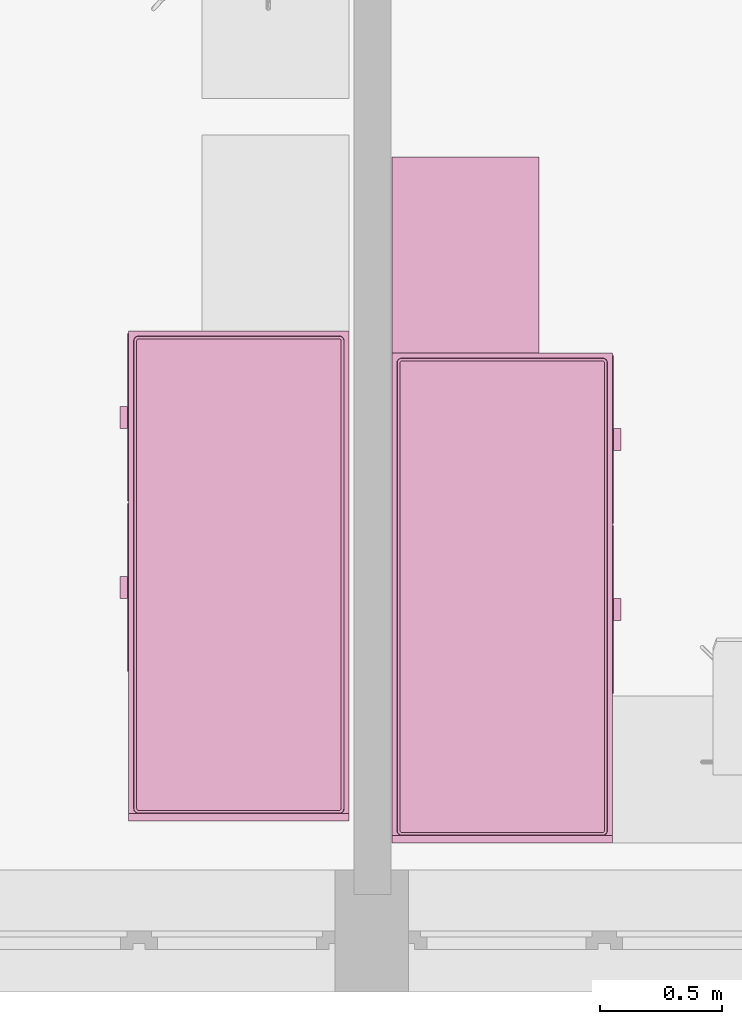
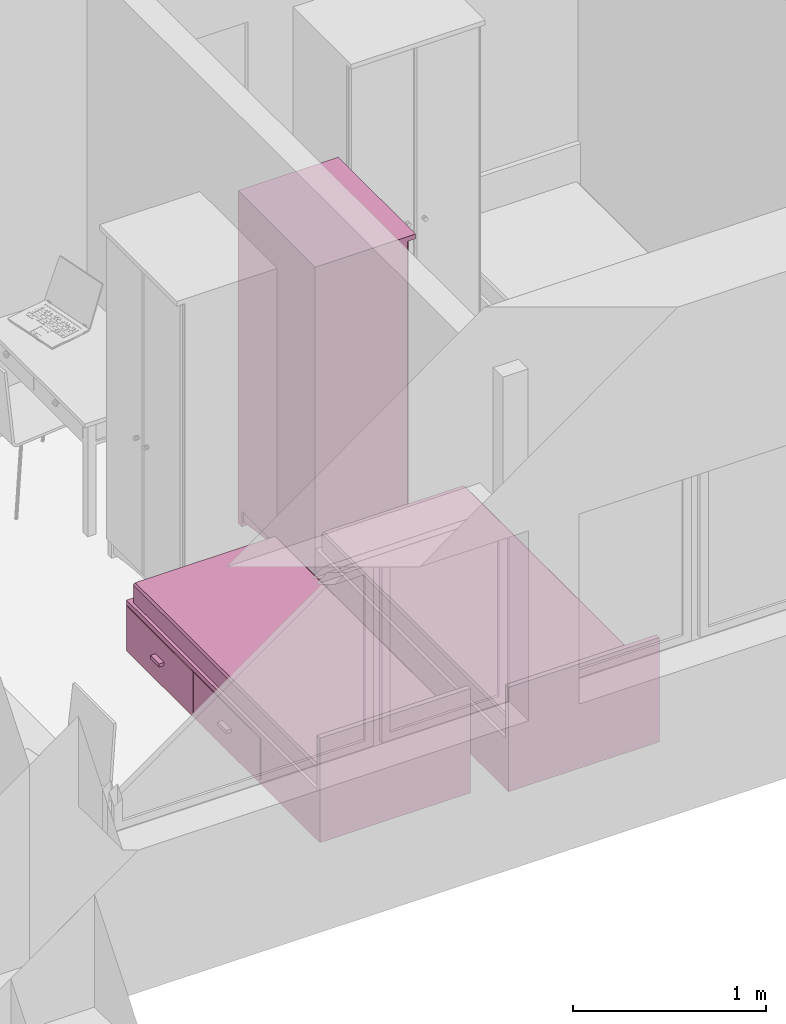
# One storey, part 100 of 165: 3 furnishings.
"""IFC2X3 building model written with IfcOpenShell, lengths in millimetres."""

from ifc_helpers import new_model, entity, si_unit, converted_unit, money_unit, direction, frame, origin_with_axes, place, context, subcontext, project, spatial, faceted_brep, source, transform, mapped, material, material_list, type_object, element, save


model = new_model("IFC2X3")

# Units and contexts
model_context = context("Model", 3, precision=1e-05, world=origin_with_axes(), true_north=direction((0.0, 1.0)))
body_context = subcontext(model_context, "Body", "Model", "MODEL_VIEW")
ifc_project = project(units=[si_unit("LENGTHUNIT", "METRE", prefix="MILLI"), si_unit("AREAUNIT", "SQUARE_METRE"), si_unit("VOLUMEUNIT", "CUBIC_METRE"), converted_unit("PLANEANGLEUNIT", "DEGREE", entity("IfcPlaneAngleMeasure", 0.0174532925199), si_unit("PLANEANGLEUNIT", "RADIAN"), dimensions=[0, 0, 0, 0, 0, 0, 0]), si_unit("SOLIDANGLEUNIT", "STERADIAN"), money_unit("USD"), converted_unit("TIMEUNIT", "Year", entity("IfcTimeMeasure", 31556926.0), si_unit("TIMEUNIT", "SECOND"), dimensions=[0, 0, 0, 0, 0, 0, 0]), si_unit("MASSUNIT", "GRAM"), si_unit("THERMODYNAMICTEMPERATUREUNIT", "DEGREE_CELSIUS"), si_unit("LUMINOUSINTENSITYUNIT", "LUMEN")], contexts=[model_context])

# Site, building, storey
site_placement = place(None, origin_with_axes())
site = spatial("IfcSite", under=ifc_project, at=site_placement, Name="Site", CompositionType="ELEMENT")
building_placement = place(site_placement, origin_with_axes())
building = spatial("IfcBuilding", under=site, at=building_placement, Name="Building", CompositionType="ELEMENT")
storey_placement = place(building_placement, frame((0.0, 0.0, 6300.0), z_axis=(0.0, 0.0, 1.0), x_axis=(1.0, 0.0, 0.0)))
storey = spatial("IfcBuildingStorey", under=building, at=storey_placement, Name="4KORRUS", CompositionType="ELEMENT", Elevation=6300.0)

# Furnishings
ifc_material = material(Name="Background")
ifc_material_list = material_list([ifc_material])
furnishing_element_type_1 = type_object("IfcFurnishingElementType", Name="Bed 19")
shared_shape_1 = source(origin_with_axes(), body_context, "Body", "Brep", [
    faceted_brep([(900.0, 1970.0, 0.0), (0.0, 1970.0, 0.0), (0.0, 2000.0, 0.0), (900.0, 2000.0, 0.0), (900.0, 1970.0, 660.0), (0.0, 1970.0, 660.0), (0.0, 2000.0, 660.0), (900.0, 2000.0, 660.0)], [[[0, 1, 2, 3]], [[1, 0, 4, 5]], [[2, 1, 5, 6]], [[3, 2, 6, 7]], [[0, 3, 7, 4]], [[5, 4, 7, 6]]]),
    faceted_brep([(900.0, 0.0, 0.0), (0.0, 0.0, 0.0), (0.0, 1970.0, 0.0), (900.0, 1970.0, 0.0), (900.0, 0.0, 320.0), (0.0, 0.0, 320.0), (0.0, 1970.0, 320.0), (900.0, 1970.0, 320.0)], [[[0, 1, 2, 3]], [[1, 0, 4, 5]], [[2, 1, 5, 6]], [[3, 2, 6, 7]], [[0, 3, 7, 4]], [[5, 4, 7, 6]]]),
    faceted_brep([(905.0, 10.0, 30.0), (900.0, 10.0, 30.0), (900.0, 695.0, 30.0), (905.0, 695.0, 30.0), (905.0, 10.0, 290.0), (900.0, 10.0, 290.0), (900.0, 695.0, 290.0), (905.0, 695.0, 290.0)], [[[0, 1, 2, 3]], [[1, 0, 4, 5]], [[2, 1, 5, 6]], [[3, 2, 6, 7]], [[0, 3, 7, 4]], [[5, 4, 7, 6]]]),
    faceted_brep([(935.0, 307.5, 150.0), (905.0, 307.5, 150.0), (905.0, 397.5, 150.0), (935.0, 397.5, 150.0), (935.0, 307.5, 170.0), (905.0, 307.5, 170.0), (905.0, 397.5, 170.0), (935.0, 397.5, 170.0)], [[[0, 1, 2, 3]], [[1, 0, 4, 5]], [[2, 1, 5, 6]], [[3, 2, 6, 7]], [[0, 3, 7, 4]], [[5, 4, 7, 6]]]),
    faceted_brep([(905.0, 705.0, 30.0), (900.0, 705.0, 30.0), (900.0, 1390.0, 30.0), (905.0, 1390.0, 30.0), (905.0, 705.0, 290.0), (900.0, 705.0, 290.0), (900.0, 1390.0, 290.0), (905.0, 1390.0, 290.0)], [[[0, 1, 2, 3]], [[1, 0, 4, 5]], [[2, 1, 5, 6]], [[3, 2, 6, 7]], [[0, 3, 7, 4]], [[5, 4, 7, 6]]]),
    faceted_brep([(935.0, 1002.5, 150.0), (905.0, 1002.5, 150.0), (905.0, 1092.5, 150.0), (935.0, 1092.5, 150.0), (935.0, 1002.5, 170.0), (905.0, 1002.5, 170.0), (905.0, 1092.5, 170.0), (935.0, 1092.5, 170.0)], [[[0, 1, 2, 3]], [[1, 0, 4, 5]], [[2, 1, 5, 6]], [[3, 2, 6, 7]], [[0, 3, 7, 4]], [[5, 4, 7, 6]]]),
    faceted_brep([(20.0, 40.0, 350.0), (20.0, 1950.0, 350.0), (21.522, 1957.654, 350.0), (25.858, 1964.142, 350.0), (32.346, 1968.478, 350.0), (40.0, 1970.0, 350.0), (860.0, 1970.0, 350.0), (867.654, 1968.478, 350.0), (874.142, 1964.142, 350.0), (878.478, 1957.654, 350.0), (880.0, 1950.0, 350.0), (880.0, 40.0, 350.0), (878.478, 32.346, 350.0), (874.142, 25.858, 350.0), (867.654, 21.522, 350.0), (860.0, 20.0, 350.0), (40.0, 20.0, 350.0), (32.346, 21.522, 350.0), (25.858, 25.858, 350.0), (21.522, 32.346, 350.0), (20.0, 40.0, 420.0), (20.0, 1950.0, 420.0), (21.522, 1957.654, 420.0), (25.858, 1964.142, 420.0), (32.346, 1968.478, 420.0), (40.0, 1970.0, 420.0), (860.0, 1970.0, 420.0), (867.654, 1968.478, 420.0), (874.142, 1964.142, 420.0), (878.478, 1957.654, 420.0), (880.0, 1950.0, 420.0), (880.0, 40.0, 420.0), (878.478, 32.346, 420.0), (874.142, 25.858, 420.0), (867.654, 21.522, 420.0), (860.0, 20.0, 420.0), (40.0, 20.0, 420.0), (32.346, 21.522, 420.0), (25.858, 25.858, 420.0), (21.522, 32.346, 420.0), (21.522, 40.15, 427.654), (21.522, 1949.85, 427.654), (22.956, 1957.06, 427.654), (26.955, 1963.045, 427.654), (32.94, 1967.044, 427.654), (40.15, 1968.478, 427.654), (859.85, 1968.478, 427.654), (867.06, 1967.044, 427.654), (873.045, 1963.045, 427.654), (877.044, 1957.06, 427.654), (878.478, 1949.85, 427.654), (878.478, 40.15, 427.654), (877.044, 32.94, 427.654), (873.045, 26.955, 427.654), (867.06, 22.956, 427.654), (859.85, 21.522, 427.654), (40.15, 21.522, 427.654), (32.94, 22.956, 427.654), (26.955, 26.955, 427.654), (22.956, 32.94, 427.654), (32.346, 41.216, 438.478), (32.346, 1948.784, 438.478), (33.152, 1952.836, 438.478), (34.759, 1955.241, 438.478), (37.164, 1956.848, 438.478), (41.216, 1957.654, 438.478), (858.784, 1957.654, 438.478), (862.836, 1956.848, 438.478), (865.241, 1955.241, 438.478), (866.848, 1952.836, 438.478), (867.654, 1948.784, 438.478), (867.654, 41.216, 438.478), (866.848, 37.164, 438.478), (865.241, 34.759, 438.478), (862.836, 33.152, 438.478), (858.784, 32.346, 438.478), (41.216, 32.346, 438.478), (37.164, 33.152, 438.478), (34.759, 34.759, 438.478), (33.152, 37.164, 438.478), (40.0, 41.97, 440.0), (40.0, 1948.03, 440.0), (40.327, 1949.673, 440.0), (40.0, 1950.0, 439.924), (41.97, 1950.0, 440.0), (858.03, 1950.0, 440.0), (859.673, 1949.673, 440.0), (860.0, 1950.0, 439.924), (860.0, 1948.03, 440.0), (860.0, 41.97, 440.0), (859.673, 40.327, 440.0), (860.0, 40.0, 439.924), (858.03, 40.0, 440.0), (41.97, 40.0, 440.0), (40.327, 40.327, 440.0), (40.0, 40.0, 439.924)], [[[0, 1, 2, 3, 4, 5, 6, 7, 8, 9, 10, 11, 12, 13, 14, 15, 16, 17, 18, 19]], [[1, 0, 20, 21]], [[2, 1, 21, 22]], [[3, 2, 22, 23]], [[4, 3, 23, 24]], [[5, 4, 24, 25]], [[6, 5, 25, 26]], [[7, 6, 26, 27]], [[8, 7, 27, 28]], [[9, 8, 28, 29]], [[10, 9, 29, 30]], [[11, 10, 30, 31]], [[12, 11, 31, 32]], [[13, 12, 32, 33]], [[14, 13, 33, 34]], [[15, 14, 34, 35]], [[16, 15, 35, 36]], [[17, 16, 36, 37]], [[18, 17, 37, 38]], [[19, 18, 38, 39]], [[0, 19, 39, 20]], [[21, 20, 40, 41]], [[22, 21, 41, 42]], [[23, 22, 42, 43]], [[24, 23, 43, 44]], [[25, 24, 44, 45]], [[26, 25, 45, 46]], [[27, 26, 46, 47]], [[28, 27, 47, 48]], [[29, 28, 48, 49]], [[30, 29, 49, 50]], [[31, 30, 50, 51]], [[32, 31, 51, 52]], [[33, 32, 52, 53]], [[34, 33, 53, 54]], [[35, 34, 54, 55]], [[36, 35, 55, 56]], [[37, 36, 56, 57]], [[38, 37, 57, 58]], [[39, 38, 58, 59]], [[20, 39, 59, 40]], [[41, 40, 60, 61]], [[42, 41, 61, 62]], [[43, 42, 62, 63]], [[44, 43, 63, 64]], [[45, 44, 64, 65]], [[46, 45, 65, 66]], [[47, 46, 66, 67]], [[48, 47, 67, 68]], [[49, 48, 68, 69]], [[50, 49, 69, 70]], [[51, 50, 70, 71]], [[52, 51, 71, 72]], [[53, 52, 72, 73]], [[54, 53, 73, 74]], [[55, 54, 74, 75]], [[56, 55, 75, 76]], [[57, 56, 76, 77]], [[58, 57, 77, 78]], [[59, 58, 78, 79]], [[40, 59, 79, 60]], [[61, 60, 80, 81]], [[62, 61, 81, 82, 83]], [[63, 62, 83]], [[64, 63, 83]], [[65, 64, 83, 82, 84]], [[66, 65, 84, 85]], [[67, 66, 85, 86, 87]], [[68, 67, 87]], [[69, 68, 87]], [[70, 69, 87, 86, 88]], [[71, 70, 88, 89]], [[72, 71, 89, 90, 91]], [[73, 72, 91]], [[74, 73, 91]], [[75, 74, 91, 90, 92]], [[76, 75, 92, 93]], [[77, 76, 93, 94, 95]], [[78, 77, 95]], [[79, 78, 95]], [[60, 79, 95, 94, 80]], [[81, 80, 94, 93, 92, 90, 89, 88, 86, 85, 84, 82]]]),
    faceted_brep([(20.0, 40.0, 350.0), (21.522, 32.346, 350.0), (25.858, 25.858, 350.0), (32.346, 21.522, 350.0), (40.0, 20.0, 350.0), (860.0, 20.0, 350.0), (867.654, 21.522, 350.0), (874.142, 25.858, 350.0), (878.478, 32.346, 350.0), (880.0, 40.0, 350.0), (880.0, 1950.0, 350.0), (878.478, 1957.654, 350.0), (874.142, 1964.142, 350.0), (867.654, 1968.478, 350.0), (860.0, 1970.0, 350.0), (40.0, 1970.0, 350.0), (32.346, 1968.478, 350.0), (25.858, 1964.142, 350.0), (21.522, 1957.654, 350.0), (20.0, 1950.0, 350.0), (20.0, 40.0, 320.0), (21.522, 32.346, 320.0), (25.858, 25.858, 320.0), (32.346, 21.522, 320.0), (40.0, 20.0, 320.0), (860.0, 20.0, 320.0), (867.654, 21.522, 320.0), (874.142, 25.858, 320.0), (878.478, 32.346, 320.0), (880.0, 40.0, 320.0), (880.0, 1950.0, 320.0), (878.478, 1957.654, 320.0), (874.142, 1964.142, 320.0), (867.654, 1968.478, 320.0), (860.0, 1970.0, 320.0), (40.0, 1970.0, 320.0), (32.346, 1968.478, 320.0), (25.858, 1964.142, 320.0), (21.522, 1957.654, 320.0), (20.0, 1950.0, 320.0)], [[[0, 1, 2, 3, 4, 5, 6, 7, 8, 9, 10, 11, 12, 13, 14, 15, 16, 17, 18, 19]], [[0, 20, 21, 1]], [[1, 21, 22, 2]], [[2, 22, 23, 3]], [[3, 23, 24, 4]], [[4, 24, 25, 5]], [[5, 25, 26, 6]], [[6, 26, 27, 7]], [[7, 27, 28, 8]], [[8, 28, 29, 9]], [[9, 29, 30, 10]], [[10, 30, 31, 11]], [[11, 31, 32, 12]], [[12, 32, 33, 13]], [[13, 33, 34, 14]], [[14, 34, 35, 15]], [[15, 35, 36, 16]], [[16, 36, 37, 17]], [[17, 37, 38, 18]], [[18, 38, 39, 19]], [[19, 39, 20, 0]], [[20, 39, 38, 37, 36, 35, 34, 33, 32, 31, 30, 29, 28, 27, 26, 25, 24, 23, 22, 21]]]),
])
furnishing_1_placement = place(storey_placement, frame((-21240.2967033, -17439.2398994, 0.0), z_axis=(0.0, 0.0, 1.0), x_axis=(-1.0, 0.0, 0.0)))
element("IfcFurnishingElement", 1, at=furnishing_1_placement, inside=storey, type_object=furnishing_element_type_1, material=ifc_material_list, Name="FU - 013", context=body_context, shape_type="MappedRepresentation", body=[
    mapped(shared_shape_1, transform((0.0, 0.0, 0.0))),
])
furnishing_element_type_2 = type_object("IfcFurnishingElementType", Name="Cupboard 19")
shared_shape_2 = source(origin_with_axes(), body_context, "Body", "Brep", [
    faceted_brep([(780.0, 600.0, 120.0), (780.0, 600.0, 2050.0), (780.0, 580.0, 2050.0), (780.0, 580.0, 120.0), (20.0, 600.0, 120.0), (20.0, 600.0, 2050.0), (20.0, 580.0, 2050.0), (20.0, 580.0, 120.0)], [[[0, 1, 2, 3]], [[4, 5, 1, 0]], [[1, 5, 6, 2]], [[3, 2, 6, 7]], [[0, 3, 7, 4]], [[7, 6, 5, 4]]]),
    faceted_brep([(0.0, 50.0, 100.0), (0.0, 600.0, 100.0), (20.0, 600.0, 100.0), (20.0, 50.0, 100.0), (0.0, 50.0, 2070.0), (0.0, 600.0, 2070.0), (20.0, 600.0, 2070.0), (20.0, 50.0, 2070.0)], [[[0, 1, 2, 3]], [[0, 4, 5, 1]], [[1, 5, 6, 2]], [[2, 6, 7, 3]], [[3, 7, 4, 0]], [[7, 6, 5, 4]]]),
    faceted_brep([(780.0, 50.0, 100.0), (780.0, 600.0, 100.0), (800.0, 600.0, 100.0), (800.0, 50.0, 100.0), (780.0, 50.0, 2070.0), (780.0, 600.0, 2070.0), (800.0, 600.0, 2070.0), (800.0, 50.0, 2070.0)], [[[0, 1, 2, 3]], [[0, 4, 5, 1]], [[1, 5, 6, 2]], [[2, 6, 7, 3]], [[3, 7, 4, 0]], [[7, 6, 5, 4]]]),
    faceted_brep([(20.0, 50.0, 100.0), (20.0, 600.0, 100.0), (780.0, 600.0, 100.0), (780.0, 50.0, 100.0), (20.0, 50.0, 120.0), (20.0, 600.0, 120.0), (780.0, 600.0, 120.0), (780.0, 50.0, 120.0)], [[[0, 1, 2, 3]], [[0, 4, 5, 1]], [[1, 5, 6, 2]], [[2, 6, 7, 3]], [[3, 7, 4, 0]], [[7, 6, 5, 4]]]),
    faceted_brep([(20.0, 50.0, 2050.0), (20.0, 600.0, 2050.0), (780.0, 600.0, 2050.0), (780.0, 50.0, 2050.0), (20.0, 50.0, 2070.0), (20.0, 600.0, 2070.0), (780.0, 600.0, 2070.0), (780.0, 50.0, 2070.0)], [[[0, 1, 2, 3]], [[0, 4, 5, 1]], [[1, 5, 6, 2]], [[2, 6, 7, 3]], [[3, 7, 4, 0]], [[7, 6, 5, 4]]]),
    faceted_brep([(0.0, 600.0, 2070.0), (0.0, 0.0, 2070.0), (0.0, 0.0, 2100.0), (0.0, 600.0, 2100.0), (800.0, 600.0, 2070.0), (800.0, 0.0, 2070.0), (800.0, 0.0, 2100.0), (800.0, 600.0, 2100.0)], [[[0, 1, 2, 3]], [[0, 4, 5, 1]], [[1, 5, 6, 2]], [[3, 2, 6, 7]], [[4, 0, 3, 7]], [[5, 4, 7, 6]]]),
    faceted_brep([(760.0, 590.0, 25.0), (760.0, 570.0, 25.0), (640.962, 570.0, 45.8), (640.962, 590.0, 45.8), (760.0, 590.0, 100.0), (760.0, 570.0, 100.0), (40.0, 570.0, 100.0), (40.0, 570.0, 25.0), (159.038, 570.0, 45.8), (279.23, 570.0, 58.32), (400.0, 570.0, 62.5), (520.77, 570.0, 58.32), (520.77, 590.0, 58.32), (400.0, 590.0, 62.5), (279.23, 590.0, 58.32), (159.038, 590.0, 45.8), (40.0, 590.0, 25.0), (40.0, 590.0, 100.0)], [[[0, 1, 2, 3]], [[4, 5, 1, 0]], [[1, 5, 6, 7, 8, 9, 10, 11, 2]], [[3, 2, 11, 12]], [[0, 3, 12, 13, 14, 15, 16, 17, 4]], [[17, 6, 5, 4]], [[16, 7, 6, 17]], [[15, 8, 7, 16]], [[14, 9, 8, 15]], [[13, 10, 9, 14]], [[12, 11, 10, 13]]]),
    faceted_brep([(760.0, 80.0, 25.0), (760.0, 60.0, 25.0), (640.962, 60.0, 45.8), (640.962, 80.0, 45.8), (760.0, 80.0, 100.0), (760.0, 60.0, 100.0), (40.0, 60.0, 100.0), (40.0, 60.0, 25.0), (159.038, 60.0, 45.8), (279.23, 60.0, 58.32), (400.0, 60.0, 62.5), (520.77, 60.0, 58.32), (520.77, 80.0, 58.32), (400.0, 80.0, 62.5), (279.23, 80.0, 58.32), (159.038, 80.0, 45.8), (40.0, 80.0, 25.0), (40.0, 80.0, 100.0)], [[[0, 1, 2, 3]], [[4, 5, 1, 0]], [[1, 5, 6, 7, 8, 9, 10, 11, 2]], [[3, 2, 11, 12]], [[0, 3, 12, 13, 14, 15, 16, 17, 4]], [[17, 6, 5, 4]], [[16, 7, 6, 17]], [[15, 8, 7, 16]], [[14, 9, 8, 15]], [[13, 10, 9, 14]], [[12, 11, 10, 13]]]),
    faceted_brep([(790.0, 90.0, 25.0), (770.0, 90.0, 25.0), (770.0, 141.266, 38.072), (790.0, 141.266, 38.072), (790.0, 90.0, 100.0), (770.0, 90.0, 100.0), (770.0, 560.0, 100.0), (770.0, 560.0, 25.0), (770.0, 508.734, 38.072), (770.0, 456.752, 47.92), (770.0, 404.257, 54.508), (770.0, 351.453, 57.808), (770.0, 298.547, 57.808), (770.0, 245.743, 54.508), (770.0, 193.248, 47.92), (790.0, 193.248, 47.92), (790.0, 245.743, 54.508), (790.0, 298.547, 57.808), (790.0, 351.453, 57.808), (790.0, 404.257, 54.508), (790.0, 456.752, 47.92), (790.0, 508.734, 38.072), (790.0, 560.0, 25.0), (790.0, 560.0, 100.0)], [[[0, 1, 2, 3]], [[4, 5, 1, 0]], [[1, 5, 6, 7, 8, 9, 10, 11, 12, 13, 14, 2]], [[3, 2, 14, 15]], [[0, 3, 15, 16, 17, 18, 19, 20, 21, 22, 23, 4]], [[23, 6, 5, 4]], [[22, 7, 6, 23]], [[21, 8, 7, 22]], [[20, 9, 8, 21]], [[19, 10, 9, 20]], [[18, 11, 10, 19]], [[17, 12, 11, 18]], [[16, 13, 12, 17]], [[15, 14, 13, 16]]]),
    faceted_brep([(30.0, 90.0, 25.0), (10.0, 90.0, 25.0), (10.0, 141.266, 38.072), (30.0, 141.266, 38.072), (30.0, 90.0, 100.0), (10.0, 90.0, 100.0), (10.0, 560.0, 100.0), (10.0, 560.0, 25.0), (10.0, 508.734, 38.072), (10.0, 456.752, 47.92), (10.0, 404.257, 54.508), (10.0, 351.453, 57.808), (10.0, 298.547, 57.808), (10.0, 245.743, 54.508), (10.0, 193.248, 47.92), (30.0, 193.248, 47.92), (30.0, 245.743, 54.508), (30.0, 298.547, 57.808), (30.0, 351.453, 57.808), (30.0, 404.257, 54.508), (30.0, 456.752, 47.92), (30.0, 508.734, 38.072), (30.0, 560.0, 25.0), (30.0, 560.0, 100.0)], [[[0, 1, 2, 3]], [[4, 5, 1, 0]], [[1, 5, 6, 7, 8, 9, 10, 11, 12, 13, 14, 2]], [[3, 2, 14, 15]], [[0, 3, 15, 16, 17, 18, 19, 20, 21, 22, 23, 4]], [[23, 6, 5, 4]], [[22, 7, 6, 23]], [[21, 8, 7, 22]], [[20, 9, 8, 21]], [[19, 10, 9, 20]], [[18, 11, 10, 19]], [[17, 12, 11, 18]], [[16, 13, 12, 17]], [[15, 14, 13, 16]]]),
    faceted_brep([(760.0, 560.0, 0.0), (760.0, 560.0, 100.0), (760.0, 600.0, 100.0), (760.0, 600.0, 0.0), (800.0, 560.0, 0.0), (800.0, 560.0, 100.0), (800.0, 600.0, 100.0), (800.0, 600.0, 0.0)], [[[0, 1, 2, 3]], [[4, 5, 1, 0]], [[1, 5, 6, 2]], [[3, 2, 6, 7]], [[0, 3, 7, 4]], [[7, 6, 5, 4]]]),
    faceted_brep([(0.0, 560.0, 0.0), (0.0, 560.0, 100.0), (0.0, 600.0, 100.0), (0.0, 600.0, 0.0), (40.0, 560.0, 0.0), (40.0, 560.0, 100.0), (40.0, 600.0, 100.0), (40.0, 600.0, 0.0)], [[[0, 1, 2, 3]], [[4, 5, 1, 0]], [[1, 5, 6, 2]], [[3, 2, 6, 7]], [[0, 3, 7, 4]], [[7, 6, 5, 4]]]),
    faceted_brep([(760.0, 50.0, 0.0), (760.0, 50.0, 100.0), (760.0, 90.0, 100.0), (760.0, 90.0, 0.0), (800.0, 50.0, 0.0), (800.0, 50.0, 100.0), (800.0, 90.0, 100.0), (800.0, 90.0, 0.0)], [[[0, 1, 2, 3]], [[4, 5, 1, 0]], [[1, 5, 6, 2]], [[3, 2, 6, 7]], [[0, 3, 7, 4]], [[7, 6, 5, 4]]]),
    faceted_brep([(0.0, 50.0, 0.0), (0.0, 50.0, 100.0), (0.0, 90.0, 100.0), (0.0, 90.0, 0.0), (40.0, 50.0, 0.0), (40.0, 50.0, 100.0), (40.0, 90.0, 100.0), (40.0, 90.0, 0.0)], [[[0, 1, 2, 3]], [[4, 5, 1, 0]], [[1, 5, 6, 2]], [[3, 2, 6, 7]], [[0, 3, 7, 4]], [[7, 6, 5, 4]]]),
    faceted_brep([(780.0, 580.0, 587.5), (780.0, 580.0, 607.5), (780.0, 50.0, 607.5), (780.0, 50.0, 587.5), (20.0, 580.0, 587.5), (20.0, 580.0, 607.5), (20.0, 50.0, 607.5), (20.0, 50.0, 587.5)], [[[0, 1, 2, 3]], [[4, 5, 1, 0]], [[1, 5, 6, 2]], [[3, 2, 6, 7]], [[0, 3, 7, 4]], [[7, 6, 5, 4]]]),
    faceted_brep([(780.0, 580.0, 1075.0), (780.0, 580.0, 1095.0), (780.0, 50.0, 1095.0), (780.0, 50.0, 1075.0), (20.0, 580.0, 1075.0), (20.0, 580.0, 1095.0), (20.0, 50.0, 1095.0), (20.0, 50.0, 1075.0)], [[[0, 1, 2, 3]], [[4, 5, 1, 0]], [[1, 5, 6, 2]], [[3, 2, 6, 7]], [[0, 3, 7, 4]], [[7, 6, 5, 4]]]),
    faceted_brep([(780.0, 580.0, 1562.5), (780.0, 580.0, 1582.5), (780.0, 50.0, 1582.5), (780.0, 50.0, 1562.5), (20.0, 580.0, 1562.5), (20.0, 580.0, 1582.5), (20.0, 50.0, 1582.5), (20.0, 50.0, 1562.5)], [[[0, 1, 2, 3]], [[4, 5, 1, 0]], [[1, 5, 6, 2]], [[3, 2, 6, 7]], [[0, 3, 7, 4]], [[7, 6, 5, 4]]]),
    faceted_brep([(789.5, 50.0, 110.5), (400.5, 50.0, 110.5), (400.5, 50.0, 2059.5), (789.5, 50.0, 2059.5), (789.5, 40.0, 110.5), (400.5, 40.0, 110.5), (400.5, 40.0, 2059.5), (789.5, 40.0, 2059.5), (779.5, 30.0, 120.5), (410.5, 30.0, 120.5), (410.5, 30.0, 2049.5), (779.5, 30.0, 2049.5)], [[[0, 1, 2, 3]], [[0, 4, 5, 1]], [[1, 5, 6, 2]], [[2, 6, 7, 3]], [[3, 7, 4, 0]], [[4, 8, 9, 5]], [[5, 9, 10, 6]], [[6, 10, 11, 7]], [[7, 11, 8, 4]], [[10, 9, 8, 11]]]),
    faceted_brep([(399.5, 50.0, 110.5), (10.5, 50.0, 110.5), (10.5, 50.0, 2059.5), (399.5, 50.0, 2059.5), (399.5, 40.0, 110.5), (10.5, 40.0, 110.5), (10.5, 40.0, 2059.5), (399.5, 40.0, 2059.5), (389.5, 30.0, 120.5), (20.5, 30.0, 120.5), (20.5, 30.0, 2049.5), (389.5, 30.0, 2049.5)], [[[0, 1, 2, 3]], [[0, 4, 5, 1]], [[1, 5, 6, 2]], [[2, 6, 7, 3]], [[3, 7, 4, 0]], [[4, 8, 9, 5]], [[5, 9, 10, 6]], [[6, 10, 11, 7]], [[7, 11, 8, 4]], [[10, 9, 8, 11]]]),
    faceted_brep([(339.608, 30.0, 954.0), (338.0, 30.0, 960.0), (339.608, 30.0, 966.0), (344.0, 30.0, 970.392), (350.0, 30.0, 972.0), (356.0, 30.0, 970.392), (360.392, 30.0, 966.0), (362.0, 30.0, 960.0), (360.392, 30.0, 954.0), (356.0, 30.0, 949.608), (350.0, 30.0, 948.0), (344.0, 30.0, 949.608), (339.608, 5.0, 954.0), (338.0, 5.0, 960.0), (339.608, 5.0, 966.0), (344.0, 5.0, 970.392), (350.0, 5.0, 972.0), (356.0, 5.0, 970.392), (360.392, 5.0, 966.0), (362.0, 5.0, 960.0), (360.392, 5.0, 954.0), (356.0, 5.0, 949.608), (350.0, 5.0, 948.0), (344.0, 5.0, 949.608)], [[[0, 1, 2, 3, 4, 5, 6, 7, 8, 9, 10, 11]], [[0, 12, 13, 1]], [[1, 13, 14, 2]], [[2, 14, 15, 3]], [[3, 15, 16, 4]], [[4, 16, 17, 5]], [[5, 17, 18, 6]], [[6, 18, 19, 7]], [[7, 19, 20, 8]], [[8, 20, 21, 9]], [[9, 21, 22, 10]], [[10, 22, 23, 11]], [[11, 23, 12, 0]], [[12, 23, 22, 21, 20, 19, 18, 17, 16, 15, 14, 13]]]),
    faceted_brep([(460.392, 30.0, 954.0), (456.0, 30.0, 949.608), (450.0, 30.0, 948.0), (444.0, 30.0, 949.608), (439.608, 30.0, 954.0), (438.0, 30.0, 960.0), (439.608, 30.0, 966.0), (444.0, 30.0, 970.392), (450.0, 30.0, 972.0), (456.0, 30.0, 970.392), (460.392, 30.0, 966.0), (462.0, 30.0, 960.0), (460.392, 5.0, 954.0), (456.0, 5.0, 949.608), (450.0, 5.0, 948.0), (444.0, 5.0, 949.608), (439.608, 5.0, 954.0), (438.0, 5.0, 960.0), (439.608, 5.0, 966.0), (444.0, 5.0, 970.392), (450.0, 5.0, 972.0), (456.0, 5.0, 970.392), (460.392, 5.0, 966.0), (462.0, 5.0, 960.0)], [[[0, 1, 2, 3, 4, 5, 6, 7, 8, 9, 10, 11]], [[1, 0, 12, 13]], [[2, 1, 13, 14]], [[3, 2, 14, 15]], [[4, 3, 15, 16]], [[5, 4, 16, 17]], [[6, 5, 17, 18]], [[7, 6, 18, 19]], [[8, 7, 19, 20]], [[9, 8, 20, 21]], [[10, 9, 21, 22]], [[11, 10, 22, 23]], [[0, 11, 23, 12]], [[12, 23, 22, 21, 20, 19, 18, 17, 16, 15, 14, 13]]]),
])
furnishing_2_placement = place(storey_placement, frame((-20465.2967033, -17529.2398994, 0.0), z_axis=(0.0, 0.0, 1.0), x_axis=(0.0, 1.0, 0.0)))
element("IfcFurnishingElement", 2, at=furnishing_2_placement, inside=storey, type_object=furnishing_element_type_2, material=ifc_material_list, Name="FU - 014", context=body_context, shape_type="MappedRepresentation", body=[
    mapped(shared_shape_2, transform((0.0, 0.0, 0.0))),
])
shared_shape_3 = source(origin_with_axes(), body_context, "Body", "Brep", [
    faceted_brep([(-900.0, 1970.0, 0.0), (-900.0, 2000.0, 0.0), (0.0, 2000.0, 0.0), (0.0, 1970.0, 0.0), (-900.0, 1970.0, 660.0), (-900.0, 2000.0, 660.0), (0.0, 2000.0, 660.0), (0.0, 1970.0, 660.0)], [[[0, 1, 2, 3]], [[0, 4, 5, 1]], [[1, 5, 6, 2]], [[2, 6, 7, 3]], [[3, 7, 4, 0]], [[7, 6, 5, 4]]]),
    faceted_brep([(-900.0, 0.0, 0.0), (-900.0, 1970.0, 0.0), (0.0, 1970.0, 0.0), (0.0, 0.0, 0.0), (-900.0, 0.0, 320.0), (-900.0, 1970.0, 320.0), (0.0, 1970.0, 320.0), (0.0, 0.0, 320.0)], [[[0, 1, 2, 3]], [[0, 4, 5, 1]], [[1, 5, 6, 2]], [[2, 6, 7, 3]], [[3, 7, 4, 0]], [[7, 6, 5, 4]]]),
    faceted_brep([(-905.0, 10.0, 30.0), (-905.0, 695.0, 30.0), (-900.0, 695.0, 30.0), (-900.0, 10.0, 30.0), (-905.0, 10.0, 290.0), (-905.0, 695.0, 290.0), (-900.0, 695.0, 290.0), (-900.0, 10.0, 290.0)], [[[0, 1, 2, 3]], [[0, 4, 5, 1]], [[1, 5, 6, 2]], [[2, 6, 7, 3]], [[3, 7, 4, 0]], [[7, 6, 5, 4]]]),
    faceted_brep([(-935.0, 307.5, 150.0), (-935.0, 397.5, 150.0), (-905.0, 397.5, 150.0), (-905.0, 307.5, 150.0), (-935.0, 307.5, 170.0), (-935.0, 397.5, 170.0), (-905.0, 397.5, 170.0), (-905.0, 307.5, 170.0)], [[[0, 1, 2, 3]], [[0, 4, 5, 1]], [[1, 5, 6, 2]], [[2, 6, 7, 3]], [[3, 7, 4, 0]], [[7, 6, 5, 4]]]),
    faceted_brep([(-905.0, 705.0, 30.0), (-905.0, 1390.0, 30.0), (-900.0, 1390.0, 30.0), (-900.0, 705.0, 30.0), (-905.0, 705.0, 290.0), (-905.0, 1390.0, 290.0), (-900.0, 1390.0, 290.0), (-900.0, 705.0, 290.0)], [[[0, 1, 2, 3]], [[0, 4, 5, 1]], [[1, 5, 6, 2]], [[2, 6, 7, 3]], [[3, 7, 4, 0]], [[7, 6, 5, 4]]]),
    faceted_brep([(-935.0, 1002.5, 150.0), (-935.0, 1092.5, 150.0), (-905.0, 1092.5, 150.0), (-905.0, 1002.5, 150.0), (-935.0, 1002.5, 170.0), (-935.0, 1092.5, 170.0), (-905.0, 1092.5, 170.0), (-905.0, 1002.5, 170.0)], [[[0, 1, 2, 3]], [[0, 4, 5, 1]], [[1, 5, 6, 2]], [[2, 6, 7, 3]], [[3, 7, 4, 0]], [[7, 6, 5, 4]]]),
    faceted_brep([(-20.0, 40.0, 350.0), (-21.522, 32.346, 350.0), (-25.858, 25.858, 350.0), (-32.346, 21.522, 350.0), (-40.0, 20.0, 350.0), (-860.0, 20.0, 350.0), (-867.654, 21.522, 350.0), (-874.142, 25.858, 350.0), (-878.478, 32.346, 350.0), (-880.0, 40.0, 350.0), (-880.0, 1950.0, 350.0), (-878.478, 1957.654, 350.0), (-874.142, 1964.142, 350.0), (-867.654, 1968.478, 350.0), (-860.0, 1970.0, 350.0), (-40.0, 1970.0, 350.0), (-32.346, 1968.478, 350.0), (-25.858, 1964.142, 350.0), (-21.522, 1957.654, 350.0), (-20.0, 1950.0, 350.0), (-20.0, 40.0, 420.0), (-21.522, 32.346, 420.0), (-25.858, 25.858, 420.0), (-32.346, 21.522, 420.0), (-40.0, 20.0, 420.0), (-860.0, 20.0, 420.0), (-867.654, 21.522, 420.0), (-874.142, 25.858, 420.0), (-878.478, 32.346, 420.0), (-880.0, 40.0, 420.0), (-880.0, 1950.0, 420.0), (-878.478, 1957.654, 420.0), (-874.142, 1964.142, 420.0), (-867.654, 1968.478, 420.0), (-860.0, 1970.0, 420.0), (-40.0, 1970.0, 420.0), (-32.346, 1968.478, 420.0), (-25.858, 1964.142, 420.0), (-21.522, 1957.654, 420.0), (-20.0, 1950.0, 420.0), (-21.522, 40.15, 427.654), (-22.956, 32.94, 427.654), (-26.955, 26.955, 427.654), (-32.94, 22.956, 427.654), (-40.15, 21.522, 427.654), (-859.85, 21.522, 427.654), (-867.06, 22.956, 427.654), (-873.045, 26.955, 427.654), (-877.044, 32.94, 427.654), (-878.478, 40.15, 427.654), (-878.478, 1949.85, 427.654), (-877.044, 1957.06, 427.654), (-873.045, 1963.045, 427.654), (-867.06, 1967.044, 427.654), (-859.85, 1968.478, 427.654), (-40.15, 1968.478, 427.654), (-32.94, 1967.044, 427.654), (-26.955, 1963.045, 427.654), (-22.956, 1957.06, 427.654), (-21.522, 1949.85, 427.654), (-32.346, 41.216, 438.478), (-33.152, 37.164, 438.478), (-34.759, 34.759, 438.478), (-37.164, 33.152, 438.478), (-41.216, 32.346, 438.478), (-858.784, 32.346, 438.478), (-862.836, 33.152, 438.478), (-865.241, 34.759, 438.478), (-866.848, 37.164, 438.478), (-867.654, 41.216, 438.478), (-867.654, 1948.784, 438.478), (-866.848, 1952.836, 438.478), (-865.241, 1955.241, 438.478), (-862.836, 1956.848, 438.478), (-858.784, 1957.654, 438.478), (-41.216, 1957.654, 438.478), (-37.164, 1956.848, 438.478), (-34.759, 1955.241, 438.478), (-33.152, 1952.836, 438.478), (-32.346, 1948.784, 438.478), (-40.0, 41.97, 440.0), (-40.327, 40.327, 440.0), (-40.0, 40.0, 439.924), (-41.97, 40.0, 440.0), (-858.03, 40.0, 440.0), (-859.673, 40.327, 440.0), (-860.0, 40.0, 439.924), (-860.0, 41.97, 440.0), (-860.0, 1948.03, 440.0), (-859.673, 1949.673, 440.0), (-860.0, 1950.0, 439.924), (-858.03, 1950.0, 440.0), (-41.97, 1950.0, 440.0), (-40.327, 1949.673, 440.0), (-40.0, 1950.0, 439.924), (-40.0, 1948.03, 440.0)], [[[0, 1, 2, 3, 4, 5, 6, 7, 8, 9, 10, 11, 12, 13, 14, 15, 16, 17, 18, 19]], [[0, 20, 21, 1]], [[1, 21, 22, 2]], [[2, 22, 23, 3]], [[3, 23, 24, 4]], [[4, 24, 25, 5]], [[5, 25, 26, 6]], [[6, 26, 27, 7]], [[7, 27, 28, 8]], [[8, 28, 29, 9]], [[9, 29, 30, 10]], [[10, 30, 31, 11]], [[11, 31, 32, 12]], [[12, 32, 33, 13]], [[13, 33, 34, 14]], [[14, 34, 35, 15]], [[15, 35, 36, 16]], [[16, 36, 37, 17]], [[17, 37, 38, 18]], [[18, 38, 39, 19]], [[19, 39, 20, 0]], [[20, 40, 41, 21]], [[21, 41, 42, 22]], [[22, 42, 43, 23]], [[23, 43, 44, 24]], [[24, 44, 45, 25]], [[25, 45, 46, 26]], [[26, 46, 47, 27]], [[27, 47, 48, 28]], [[28, 48, 49, 29]], [[29, 49, 50, 30]], [[30, 50, 51, 31]], [[31, 51, 52, 32]], [[32, 52, 53, 33]], [[33, 53, 54, 34]], [[34, 54, 55, 35]], [[35, 55, 56, 36]], [[36, 56, 57, 37]], [[37, 57, 58, 38]], [[38, 58, 59, 39]], [[39, 59, 40, 20]], [[40, 60, 61, 41]], [[41, 61, 62, 42]], [[42, 62, 63, 43]], [[43, 63, 64, 44]], [[44, 64, 65, 45]], [[45, 65, 66, 46]], [[46, 66, 67, 47]], [[47, 67, 68, 48]], [[48, 68, 69, 49]], [[49, 69, 70, 50]], [[50, 70, 71, 51]], [[51, 71, 72, 52]], [[52, 72, 73, 53]], [[53, 73, 74, 54]], [[54, 74, 75, 55]], [[55, 75, 76, 56]], [[56, 76, 77, 57]], [[57, 77, 78, 58]], [[58, 78, 79, 59]], [[59, 79, 60, 40]], [[60, 80, 81, 82, 61]], [[61, 82, 62]], [[62, 82, 63]], [[63, 82, 81, 83, 64]], [[64, 83, 84, 65]], [[65, 84, 85, 86, 66]], [[66, 86, 67]], [[67, 86, 68]], [[68, 86, 85, 87, 69]], [[69, 87, 88, 70]], [[70, 88, 89, 90, 71]], [[71, 90, 72]], [[72, 90, 73]], [[73, 90, 89, 91, 74]], [[74, 91, 92, 75]], [[75, 92, 93, 94, 76]], [[76, 94, 77]], [[77, 94, 78]], [[78, 94, 93, 95, 79]], [[79, 95, 80, 60]], [[95, 93, 92, 91, 89, 88, 87, 85, 84, 83, 81, 80]]]),
    faceted_brep([(-20.0, 40.0, 350.0), (-20.0, 1950.0, 350.0), (-21.522, 1957.654, 350.0), (-25.858, 1964.142, 350.0), (-32.346, 1968.478, 350.0), (-40.0, 1970.0, 350.0), (-860.0, 1970.0, 350.0), (-867.654, 1968.478, 350.0), (-874.142, 1964.142, 350.0), (-878.478, 1957.654, 350.0), (-880.0, 1950.0, 350.0), (-880.0, 40.0, 350.0), (-878.478, 32.346, 350.0), (-874.142, 25.858, 350.0), (-867.654, 21.522, 350.0), (-860.0, 20.0, 350.0), (-40.0, 20.0, 350.0), (-32.346, 21.522, 350.0), (-25.858, 25.858, 350.0), (-21.522, 32.346, 350.0), (-20.0, 40.0, 320.0), (-20.0, 1950.0, 320.0), (-21.522, 1957.654, 320.0), (-25.858, 1964.142, 320.0), (-32.346, 1968.478, 320.0), (-40.0, 1970.0, 320.0), (-860.0, 1970.0, 320.0), (-867.654, 1968.478, 320.0), (-874.142, 1964.142, 320.0), (-878.478, 1957.654, 320.0), (-880.0, 1950.0, 320.0), (-880.0, 40.0, 320.0), (-878.478, 32.346, 320.0), (-874.142, 25.858, 320.0), (-867.654, 21.522, 320.0), (-860.0, 20.0, 320.0), (-40.0, 20.0, 320.0), (-32.346, 21.522, 320.0), (-25.858, 25.858, 320.0), (-21.522, 32.346, 320.0)], [[[0, 1, 2, 3, 4, 5, 6, 7, 8, 9, 10, 11, 12, 13, 14, 15, 16, 17, 18, 19]], [[1, 0, 20, 21]], [[2, 1, 21, 22]], [[3, 2, 22, 23]], [[4, 3, 23, 24]], [[5, 4, 24, 25]], [[6, 5, 25, 26]], [[7, 6, 26, 27]], [[8, 7, 27, 28]], [[9, 8, 28, 29]], [[10, 9, 29, 30]], [[11, 10, 30, 31]], [[12, 11, 31, 32]], [[13, 12, 32, 33]], [[14, 13, 33, 34]], [[15, 14, 34, 35]], [[16, 15, 35, 36]], [[17, 16, 36, 37]], [[18, 17, 37, 38]], [[19, 18, 38, 39]], [[0, 19, 39, 20]], [[20, 39, 38, 37, 36, 35, 34, 33, 32, 31, 30, 29, 28, 27, 26, 25, 24, 23, 22, 21]]]),
])
furnishing_3_placement = place(storey_placement, frame((-21065.2967033, -17529.2398994, 0.0), z_axis=(0.0, 0.0, 1.0), x_axis=(-1.0, 0.0, 0.0)))
element("IfcFurnishingElement", 3, at=furnishing_3_placement, inside=storey, type_object=furnishing_element_type_1, material=ifc_material_list, Name="FU - 013", context=body_context, shape_type="MappedRepresentation", body=[
    mapped(shared_shape_3, transform((0.0, 0.0, 0.0))),
])

save(model, "model.ifc")
